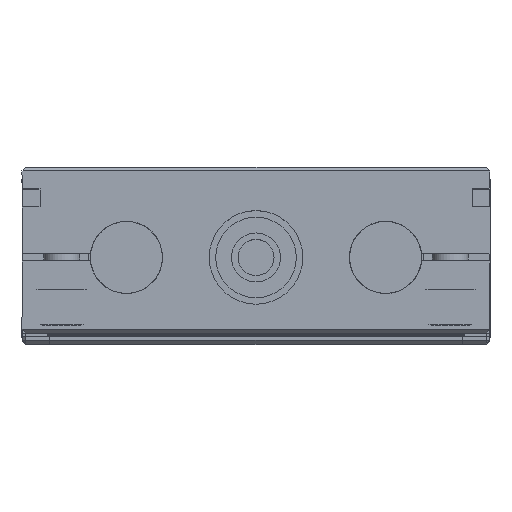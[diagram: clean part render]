
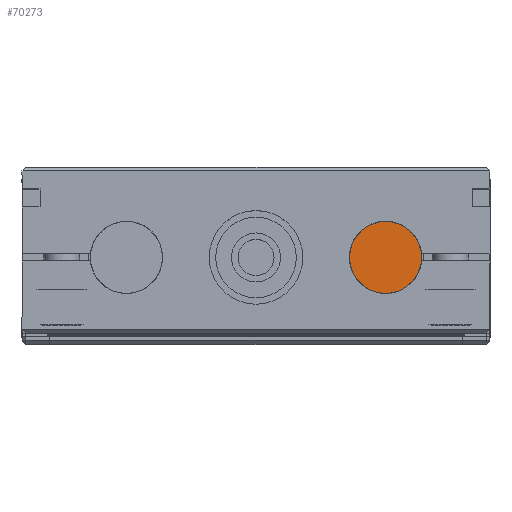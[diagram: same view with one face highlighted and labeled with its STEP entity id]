
A CAD part, top view. The second image highlights one B-rep face of the part: STEP entity #70273.
In plain terms, the highlighted planar face has unit normal (0, 0, 1) as drawn and (1, 0, 0) by its records, which use the part's own axes.
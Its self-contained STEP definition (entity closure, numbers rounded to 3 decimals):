
#5731 = AXIS2_PLACEMENT_3D ( 'NONE', #72639, #53121, #60577 ) ;
#6554 = ORIENTED_EDGE ( 'NONE', *, *, #18687, .T. ) ;
#7570 = VERTEX_POINT ( 'NONE', #74536 ) ;
#17387 = EDGE_CURVE ( 'NONE', #38059, #7570, #50554, .T. ) ;
#18687 = EDGE_CURVE ( 'NONE', #7570, #38059, #39998, .T. ) ;
#21428 = AXIS2_PLACEMENT_3D ( 'NONE', #23491, #42625, #55898 ) ;
#23491 = CARTESIAN_POINT ( 'NONE',  ( 660., 25., 36. ) ) ;
#25101 = DIRECTION ( 'NONE',  ( 1., 0., 0. ) ) ;
#38059 = VERTEX_POINT ( 'NONE', #49264 ) ;
#39998 = CIRCLE ( 'NONE', #21428, 10. ) ;
#42625 = DIRECTION ( 'NONE',  ( 1., 0., 0. ) ) ;
#49264 = CARTESIAN_POINT ( 'NONE',  ( 660., 25., 26. ) ) ;
#49650 = DIRECTION ( 'NONE',  ( 0., 0., -1. ) ) ;
#50554 = CIRCLE ( 'NONE', #78457, 10. ) ;
#53121 = DIRECTION ( 'NONE',  ( 1., 0., 0. ) ) ;
#55898 = DIRECTION ( 'NONE',  ( 0., 0., -1. ) ) ;
#56347 = EDGE_LOOP ( 'NONE', ( #77710, #6554 ) ) ;
#60577 = DIRECTION ( 'NONE',  ( 0., 0., -1. ) ) ;
#70273 = ADVANCED_FACE ( 'NONE', ( #79290 ), #71420, .T. ) ;
#70391 = CARTESIAN_POINT ( 'NONE',  ( 660., 25., 36. ) ) ;
#71420 = PLANE ( 'NONE',  #5731 ) ;
#72639 = CARTESIAN_POINT ( 'NONE',  ( 660., 25., 36. ) ) ;
#74536 = CARTESIAN_POINT ( 'NONE',  ( 660., 25., 46. ) ) ;
#77710 = ORIENTED_EDGE ( 'NONE', *, *, #17387, .T. ) ;
#78457 = AXIS2_PLACEMENT_3D ( 'NONE', #70391, #25101, #49650 ) ;
#79290 = FACE_OUTER_BOUND ( 'NONE', #56347, .T. ) ;
